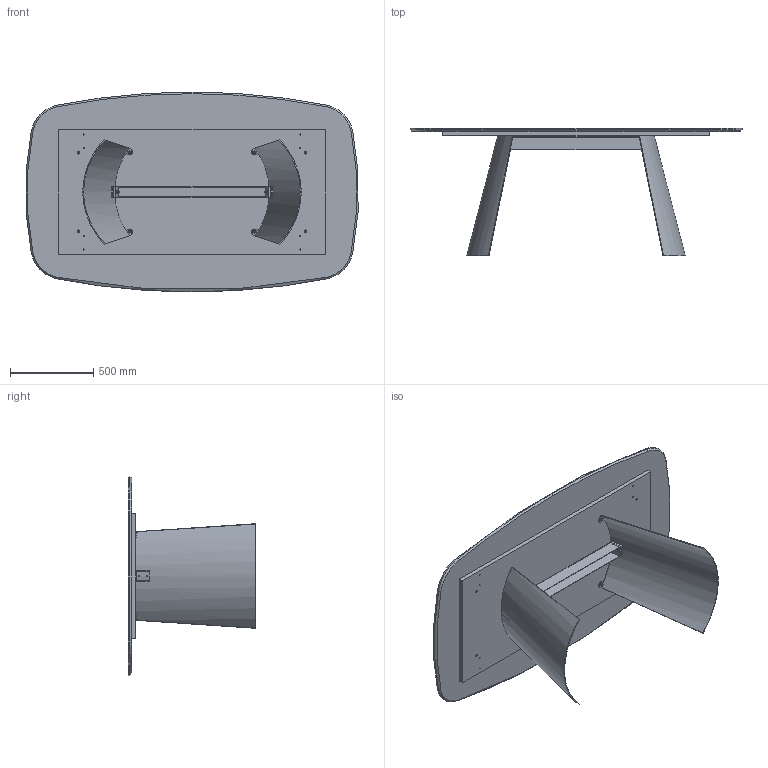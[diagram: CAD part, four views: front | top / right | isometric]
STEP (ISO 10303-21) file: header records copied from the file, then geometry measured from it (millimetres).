
FILE_DESCRIPTION (( 'STEP AP203' ), '1' );
FILE_NAME ('DN41M.STEP', '2024-08-07T14:56:42', ( '' ), ( '' ), 'SwSTEP 2.0', 'SolidWorks 2022', '' );
FILE_SCHEMA (( 'CONFIG_CONTROL_DESIGN' ));
Length unit declared in the file: millimetre
Products named in the file (14): SDNB300000-02-GAMBA X TRASP; M4X-00-Piani Sagomati in marmo_2000 x 1200; feltro Ø12x3; DNBX00000-01-DORIAN TRAVERSO LXXXX PER TAVOLO LX00_L.970; rondella M8_8X16; M4XMXX-00-Piani Sagomati in marmo_2000x1200; DNB300000_01-02-GAMBA DORIAN; DN41M; GRANO M8X35_barra; DNB400000-02-ASSIEME STRUTTURA COMPLETA_L.960; DNB300000_02-02-RISCONTRO STANGONE CENTRALE; DNB300000_03-02-PIASTRINA; TRUXXXXXX-00-NOBILITATO GR CON SUPP TRUCIOLARE SP. 25_TRU00004_1600x720; nut_M8_M8
Assembly tree (31 placements, depth 4):
  DN41M
    M4XMXX-00-Piani Sagomati in marmo_2000x1200
      M4X-00-Piani Sagomati in marmo_2000 x 1200
      TRUXXXXXX-00-NOBILITATO GR CON SUPP TRUCIOLARE SP. 25_TRU00004_1600x720
    DNB400000-02-ASSIEME STRUTTURA COMPLETA_L.960
      SDNB300000-02-GAMBA X TRASP  x2
        DNB300000_01-02-GAMBA DORIAN
        DNB300000_02-02-RISCONTRO STANGONE CENTRALE
        DNB300000_03-02-PIASTRINA
      DNBX00000-01-DORIAN TRAVERSO LXXXX PER TAVOLO LX00_L.970
    nut_M8_M8  x8
    GRANO M8X35_barra  x4
    rondella M8_8X16  x4
    feltro Ø12x3  x4
Bounding box: 1992.14 x 765 x 1200 mm (x, y, z)
Volume: 78934687.3 mm3; surface area: 9359384.3 mm2
Topology: 33 solids, 33 shells, 534 faces, 1278 edges, 795 vertices
Faces by surface type: plane 202, cylinder 155, cone 127, torus 32, bspline 18
Entity records: 10645 total; most frequent: CARTESIAN_POINT 2097, DIRECTION 1423, ORIENTED_EDGE 1316, EDGE_CURVE 658, AXIS2_PLACEMENT_3D 521, VERTEX_POINT 423, VECTOR 381, LINE 381
